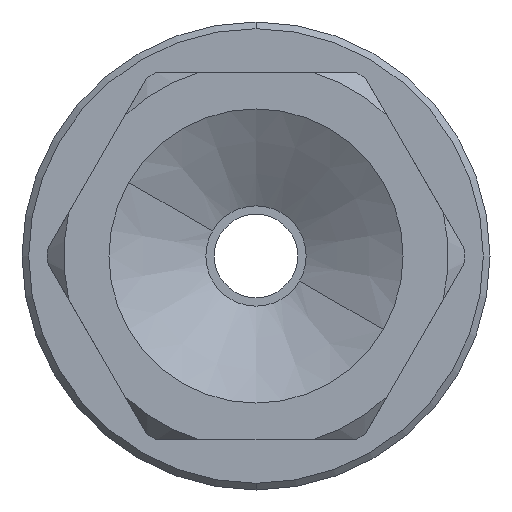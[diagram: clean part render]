
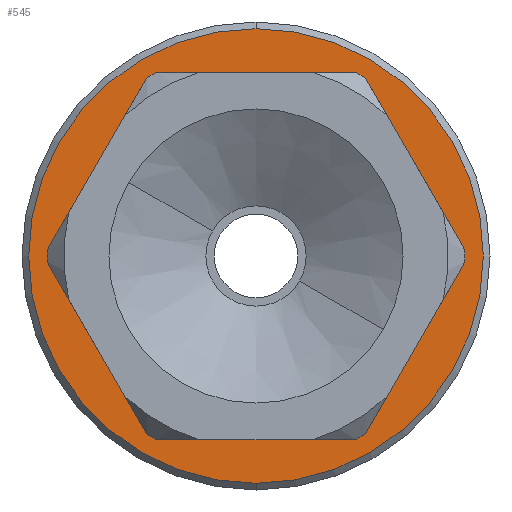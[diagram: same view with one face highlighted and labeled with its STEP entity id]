
A CAD part, front view. The second image highlights one B-rep face of the part: STEP entity #545.
In plain terms, the highlighted planar face has unit normal (0, -1, 0).
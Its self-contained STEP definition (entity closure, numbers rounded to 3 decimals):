
#272 = CARTESIAN_POINT ( 'NONE',  ( -12.587, -8.676, 14.118 ) ) ;
#338 = FACE_OUTER_BOUND ( 'NONE', #3781, .T. ) ;
#377 = ORIENTED_EDGE ( 'NONE', *, *, #1698, .T. ) ;
#383 = EDGE_CURVE ( 'NONE', #1116, #1164, #3665, .T. ) ;
#419 = AXIS2_PLACEMENT_3D ( 'NONE', #5106, #5123, #4470 ) ;
#489 = CIRCLE ( 'NONE', #5504, 3.2 ) ;
#545 = ADVANCED_FACE ( 'NONE', ( #2845, #338 ), #4539, .F. ) ;
#1116 = VERTEX_POINT ( 'NONE', #4613 ) ;
#1164 = VERTEX_POINT ( 'NONE', #3085 ) ;
#1607 = AXIS2_PLACEMENT_3D ( 'NONE', #3358, #2881, #2813 ) ;
#1628 = DIRECTION ( 'NONE',  ( 0., 0., 1. ) ) ;
#1645 = CARTESIAN_POINT ( 'NONE',  ( -5.706, -8.676, 21. ) ) ;
#1698 = EDGE_CURVE ( 'NONE', #1164, #1116, #3794, .T. ) ;
#2100 = VERTEX_POINT ( 'NONE', #5442 ) ;
#2117 = DIRECTION ( 'NONE',  ( 0., 0., -1. ) ) ;
#2123 = ORIENTED_EDGE ( 'NONE', *, *, #3188, .F. ) ;
#2720 = DIRECTION ( 'NONE',  ( 0., -1., 0. ) ) ;
#2813 = DIRECTION ( 'NONE',  ( 0., 0., 1. ) ) ;
#2845 = FACE_BOUND ( 'NONE', #6031, .T. ) ;
#2881 = DIRECTION ( 'NONE',  ( 0., -1., 0. ) ) ;
#2970 = ORIENTED_EDGE ( 'NONE', *, *, #383, .T. ) ;
#3039 = ORIENTED_EDGE ( 'NONE', *, *, #3627, .F. ) ;
#3085 = CARTESIAN_POINT ( 'NONE',  ( -5.706, -8.676, 14.2 ) ) ;
#3188 = EDGE_CURVE ( 'NONE', #5940, #2100, #4706, .T. ) ;
#3358 = CARTESIAN_POINT ( 'NONE',  ( -5.706, -8.676, 21. ) ) ;
#3430 = DIRECTION ( 'NONE',  ( 0., 1., 0. ) ) ;
#3627 = EDGE_CURVE ( 'NONE', #2100, #5940, #489, .T. ) ;
#3665 = CIRCLE ( 'NONE', #419, 6.8 ) ;
#3781 = EDGE_LOOP ( 'NONE', ( #2970, #377 ) ) ;
#3794 = CIRCLE ( 'NONE', #1607, 6.8 ) ;
#4425 = AXIS2_PLACEMENT_3D ( 'NONE', #272, #3430, #1628 ) ;
#4470 = DIRECTION ( 'NONE',  ( 0., 0., 1. ) ) ;
#4539 = PLANE ( 'NONE',  #4425 ) ;
#4613 = CARTESIAN_POINT ( 'NONE',  ( -5.706, -8.676, 27.8 ) ) ;
#4706 = CIRCLE ( 'NONE', #5966, 3.2 ) ;
#4968 = DIRECTION ( 'NONE',  ( 0., -1., 0. ) ) ;
#5106 = CARTESIAN_POINT ( 'NONE',  ( -5.706, -8.676, 21. ) ) ;
#5123 = DIRECTION ( 'NONE',  ( 0., -1., 0. ) ) ;
#5442 = CARTESIAN_POINT ( 'NONE',  ( -5.706, -8.676, 24.2 ) ) ;
#5504 = AXIS2_PLACEMENT_3D ( 'NONE', #5548, #2720, #6052 ) ;
#5548 = CARTESIAN_POINT ( 'NONE',  ( -5.706, -8.676, 21. ) ) ;
#5940 = VERTEX_POINT ( 'NONE', #6083 ) ;
#5966 = AXIS2_PLACEMENT_3D ( 'NONE', #1645, #4968, #2117 ) ;
#6031 = EDGE_LOOP ( 'NONE', ( #2123, #3039 ) ) ;
#6052 = DIRECTION ( 'NONE',  ( 0., 0., -1. ) ) ;
#6083 = CARTESIAN_POINT ( 'NONE',  ( -5.706, -8.676, 17.8 ) ) ;
